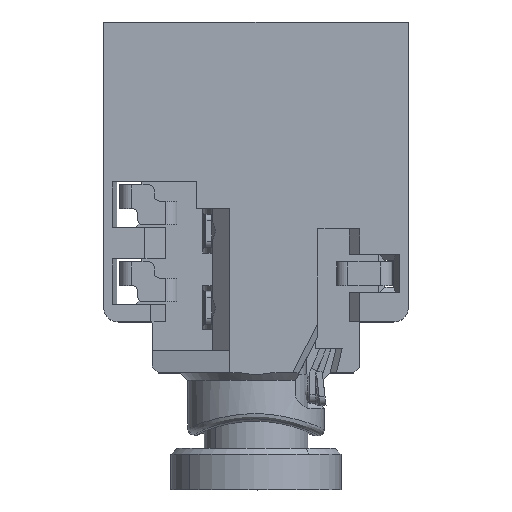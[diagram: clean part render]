
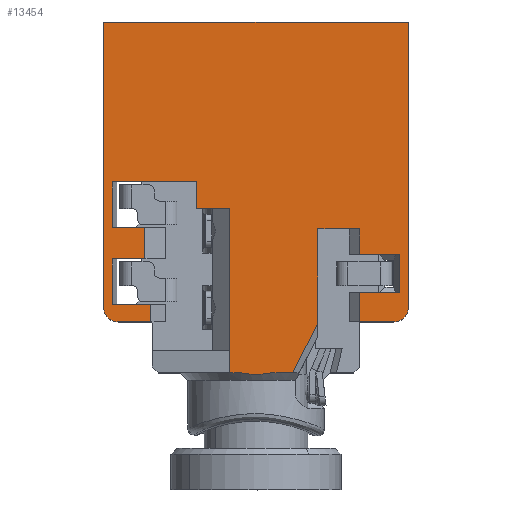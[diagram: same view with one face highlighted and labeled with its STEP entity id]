
A CAD part, top view. The second image highlights one B-rep face of the part: STEP entity #13454.
In plain terms, the highlighted planar face has unit normal (0, 0, 1).
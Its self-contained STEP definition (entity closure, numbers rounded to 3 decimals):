
#2770=DIRECTION('',(0.,-1.,0.));
#2771=VECTOR('',#2770,4.8);
#2772=CARTESIAN_POINT('',(-71.043,0.2,0.));
#2773=LINE('',#2772,#2771);
#2774=DIRECTION('',(0.,-1.,0.));
#2775=VECTOR('',#2774,0.9);
#2776=CARTESIAN_POINT('',(-72.163,1.1,0.));
#2777=LINE('',#2776,#2775);
#2778=DIRECTION('',(1.,0.,0.));
#2779=VECTOR('',#2778,1.1);
#2780=CARTESIAN_POINT('',(-74.813,-3.63,0.));
#2781=LINE('',#2780,#2779);
#2782=CARTESIAN_POINT('',(-74.813,-3.13,0.));
#2783=DIRECTION('',(0.,0.,1.));
#2784=DIRECTION('',(-1.,0.,0.));
#2785=AXIS2_PLACEMENT_3D('',#2782,#2783,#2784);
#2787=DIRECTION('',(0.,-1.,0.));
#2788=VECTOR('',#2787,9.63);
#2789=CARTESIAN_POINT('',(-75.313,6.5,0.));
#2790=LINE('',#2789,#2788);
#2791=DIRECTION('',(-1.,0.,0.));
#2792=VECTOR('',#2791,10.3);
#2793=CARTESIAN_POINT('',(-65.013,6.5,0.));
#2794=LINE('',#2793,#2792);
#2795=CARTESIAN_POINT('',(-65.513,-3.13,0.));
#2796=DIRECTION('',(0.,0.,1.));
#2797=DIRECTION('',(0.,-1.,0.));
#2798=AXIS2_PLACEMENT_3D('',#2795,#2796,#2797);
#2800=DIRECTION('',(0.,-1.,0.));
#2801=VECTOR('',#2800,0.98);
#2802=CARTESIAN_POINT('',(-66.663,-2.65,0.));
#2803=LINE('',#2802,#2801);
#2804=DIRECTION('',(-1.,0.,0.));
#2805=VECTOR('',#2804,1.35);
#2806=CARTESIAN_POINT('',(-65.313,-2.65,0.));
#2807=LINE('',#2806,#2805);
#2808=DIRECTION('',(1.,0.,0.));
#2809=VECTOR('',#2808,1.35);
#2810=CARTESIAN_POINT('',(-66.663,-1.35,0.));
#2811=LINE('',#2810,#2809);
#2812=DIRECTION('',(0.,-1.,0.));
#2813=VECTOR('',#2812,0.865);
#2814=CARTESIAN_POINT('',(-66.663,-0.485,0.));
#2815=LINE('',#2814,#2813);
#2816=DIRECTION('',(1.,0.,0.));
#2817=VECTOR('',#2816,1.41);
#2818=CARTESIAN_POINT('',(-68.073,-0.485,0.));
#2819=LINE('',#2818,#2817);
#2820=DIRECTION('',(0.,1.,0.));
#2821=VECTOR('',#2820,3.186);
#2822=CARTESIAN_POINT('',(-68.073,-3.671,0.));
#2823=LINE('',#2822,#2821);
#2824=DIRECTION('',(0.455,0.891,0.));
#2825=VECTOR('',#2824,1.885);
#2826=CARTESIAN_POINT('',(-68.93,-5.35,0.));
#2827=LINE('',#2826,#2825);
#2828=DIRECTION('',(1.,0.,0.));
#2829=VECTOR('',#2828,0.731);
#2830=CARTESIAN_POINT('',(-69.661,-5.35,0.));
#2831=LINE('',#2830,#2829);
#2832=DIRECTION('',(1.,0.,0.));
#2833=VECTOR('',#2832,0.378);
#2834=CARTESIAN_POINT('',(-71.043,-5.35,0.));
#2835=LINE('',#2834,#2833);
#2836=DIRECTION('',(0.,-1.,0.));
#2837=VECTOR('',#2836,0.75);
#2838=CARTESIAN_POINT('',(-71.043,-4.6,0.));
#2839=LINE('',#2838,#2837);
#5159=CARTESIAN_POINT('',(-69.661,-5.35,0.));
#5160=CARTESIAN_POINT('',(-69.772,-5.372,0.));
#5161=CARTESIAN_POINT('',(-69.994,-5.402,0.));
#5162=CARTESIAN_POINT('',(-70.332,-5.402,0.));
#5163=CARTESIAN_POINT('',(-70.554,-5.372,0.));
#5164=CARTESIAN_POINT('',(-70.666,-5.35,0.));
#6139=DIRECTION('',(-1.,0.,0.));
#6140=VECTOR('',#6139,1.12);
#6141=CARTESIAN_POINT('',(-71.043,0.2,0.));
#6142=LINE('',#6141,#6140);
#6177=DIRECTION('',(-1.,0.,0.));
#6178=VECTOR('',#6177,2.85);
#6179=CARTESIAN_POINT('',(-72.163,1.1,0.));
#6180=LINE('',#6179,#6178);
#6285=DIRECTION('',(0.,-1.,0.));
#6286=VECTOR('',#6285,0.58);
#6287=CARTESIAN_POINT('',(-73.713,-3.05,0.));
#6288=LINE('',#6287,#6286);
#6289=DIRECTION('',(1.,0.,0.));
#6290=VECTOR('',#6289,1.3);
#6291=CARTESIAN_POINT('',(-75.013,-3.05,0.));
#6292=LINE('',#6291,#6290);
#6317=DIRECTION('',(0.,-1.,0.));
#6318=VECTOR('',#6317,1.55);
#6319=CARTESIAN_POINT('',(-75.013,-1.5,0.));
#6320=LINE('',#6319,#6318);
#6329=DIRECTION('',(-1.,0.,0.));
#6330=VECTOR('',#6329,1.1);
#6331=CARTESIAN_POINT('',(-73.913,-1.5,0.));
#6332=LINE('',#6331,#6330);
#6406=DIRECTION('',(1.,0.,0.));
#6407=VECTOR('',#6406,1.1);
#6408=CARTESIAN_POINT('',(-75.013,-0.45,0.));
#6409=LINE('',#6408,#6407);
#6434=DIRECTION('',(0.,-1.,0.));
#6435=VECTOR('',#6434,1.55);
#6436=CARTESIAN_POINT('',(-75.013,1.1,0.));
#6437=LINE('',#6436,#6435);
#6475=DIRECTION('',(0.,-1.,0.));
#6476=VECTOR('',#6475,1.05);
#6477=CARTESIAN_POINT('',(-73.913,-0.45,0.));
#6478=LINE('',#6477,#6476);
#8000=DIRECTION('',(0.,-1.,0.));
#8001=VECTOR('',#8000,9.63);
#8002=CARTESIAN_POINT('',(-65.013,6.5,0.));
#8003=LINE('',#8002,#8001);
#8311=DIRECTION('',(0.,1.,0.));
#8312=VECTOR('',#8311,1.3);
#8313=CARTESIAN_POINT('',(-65.313,-2.65,0.));
#8314=LINE('',#8313,#8312);
#8351=DIRECTION('',(-1.,0.,0.));
#8352=VECTOR('',#8351,1.15);
#8353=CARTESIAN_POINT('',(-65.513,-3.63,0.));
#8354=LINE('',#8353,#8352);
#10346=CARTESIAN_POINT('',(-71.043,-4.6,0.));
#10348=VERTEX_POINT('',#10346);
#10370=CARTESIAN_POINT('',(-65.513,-3.63,0.));
#10371=VERTEX_POINT('',#10370);
#10430=CARTESIAN_POINT('',(-71.043,-5.35,0.));
#10431=CARTESIAN_POINT('',(-70.666,-5.35,0.));
#10432=VERTEX_POINT('',#10430);
#10433=VERTEX_POINT('',#10431);
#10492=CARTESIAN_POINT('',(-75.013,1.1,0.));
#10494=VERTEX_POINT('',#10492);
#10818=CARTESIAN_POINT('',(-66.663,-0.485,0.));
#10820=VERTEX_POINT('',#10818);
#10859=CARTESIAN_POINT('',(-72.163,1.1,0.));
#10860=CARTESIAN_POINT('',(-72.163,0.2,0.));
#10861=VERTEX_POINT('',#10859);
#10862=VERTEX_POINT('',#10860);
#10886=CARTESIAN_POINT('',(-66.663,-2.65,0.));
#10887=VERTEX_POINT('',#10886);
#11103=CARTESIAN_POINT('',(-75.013,-0.45,0.));
#11104=VERTEX_POINT('',#11103);
#11143=CARTESIAN_POINT('',(-65.013,-3.13,0.));
#11144=VERTEX_POINT('',#11143);
#11187=CARTESIAN_POINT('',(-69.661,-5.35,0.));
#11188=VERTEX_POINT('',#11187);
#11378=CARTESIAN_POINT('',(-68.073,-0.485,0.));
#11379=VERTEX_POINT('',#11378);
#11389=CARTESIAN_POINT('',(-68.93,-5.35,0.));
#11390=VERTEX_POINT('',#11389);
#11442=CARTESIAN_POINT('',(-66.663,-1.35,0.));
#11443=CARTESIAN_POINT('',(-65.313,-1.35,0.));
#11444=VERTEX_POINT('',#11442);
#11445=VERTEX_POINT('',#11443);
#11454=CARTESIAN_POINT('',(-65.013,6.5,0.));
#11455=VERTEX_POINT('',#11454);
#11708=CARTESIAN_POINT('',(-66.663,-3.63,0.));
#11709=VERTEX_POINT('',#11708);
#11829=CARTESIAN_POINT('',(-75.013,-1.5,0.));
#11830=VERTEX_POINT('',#11829);
#11851=CARTESIAN_POINT('',(-73.913,-1.5,0.));
#11852=VERTEX_POINT('',#11851);
#11867=CARTESIAN_POINT('',(-65.313,-2.65,0.));
#11868=VERTEX_POINT('',#11867);
#11988=CARTESIAN_POINT('',(-71.043,0.2,0.));
#11989=VERTEX_POINT('',#11988);
#11990=CARTESIAN_POINT('',(-68.073,-3.671,0.));
#11991=VERTEX_POINT('',#11990);
#12039=CARTESIAN_POINT('',(-73.713,-3.63,0.));
#12040=VERTEX_POINT('',#12039);
#12169=CARTESIAN_POINT('',(-75.013,-3.05,0.));
#12170=CARTESIAN_POINT('',(-73.713,-3.05,0.));
#12171=VERTEX_POINT('',#12169);
#12172=VERTEX_POINT('',#12170);
#12232=CARTESIAN_POINT('',(-75.313,-3.13,0.));
#12233=VERTEX_POINT('',#12232);
#12266=CARTESIAN_POINT('',(-75.313,6.5,0.));
#12267=VERTEX_POINT('',#12266);
#12278=CARTESIAN_POINT('',(-74.813,-3.63,0.));
#12279=VERTEX_POINT('',#12278);
#12282=CARTESIAN_POINT('',(-73.913,-0.45,0.));
#12283=VERTEX_POINT('',#12282);
#13390=CARTESIAN_POINT('',(-75.15,6.748,0.));
#13391=DIRECTION('',(0.,0.,-1.));
#13392=DIRECTION('',(1.,0.,0.));
#13393=AXIS2_PLACEMENT_3D('',#13390,#13391,#13392);
#13394=PLANE('',#13393);
#13396=ORIENTED_EDGE('',*,*,#13395,.F.);
#13398=ORIENTED_EDGE('',*,*,#13397,.T.);
#13400=ORIENTED_EDGE('',*,*,#13399,.F.);
#13402=ORIENTED_EDGE('',*,*,#13401,.T.);
#13404=ORIENTED_EDGE('',*,*,#13403,.T.);
#13406=ORIENTED_EDGE('',*,*,#13405,.T.);
#13408=ORIENTED_EDGE('',*,*,#13407,.T.);
#13410=ORIENTED_EDGE('',*,*,#13409,.T.);
#13412=ORIENTED_EDGE('',*,*,#13411,.T.);
#13414=ORIENTED_EDGE('',*,*,#13413,.T.);
#13416=ORIENTED_EDGE('',*,*,#13415,.T.);
#13418=ORIENTED_EDGE('',*,*,#13417,.F.);
#13420=ORIENTED_EDGE('',*,*,#13419,.F.);
#13422=ORIENTED_EDGE('',*,*,#13421,.F.);
#13423=ORIENTED_EDGE('',*,*,#13019,.F.);
#13425=ORIENTED_EDGE('',*,*,#13424,.T.);
#13427=ORIENTED_EDGE('',*,*,#13426,.F.);
#13429=ORIENTED_EDGE('',*,*,#13428,.T.);
#13431=ORIENTED_EDGE('',*,*,#13430,.F.);
#13433=ORIENTED_EDGE('',*,*,#13432,.F.);
#13435=ORIENTED_EDGE('',*,*,#13434,.T.);
#13436=ORIENTED_EDGE('',*,*,#13379,.F.);
#13437=ORIENTED_EDGE('',*,*,#13369,.F.);
#13439=ORIENTED_EDGE('',*,*,#13438,.F.);
#13441=ORIENTED_EDGE('',*,*,#13440,.F.);
#13443=ORIENTED_EDGE('',*,*,#13442,.F.);
#13445=ORIENTED_EDGE('',*,*,#13444,.F.);
#13447=ORIENTED_EDGE('',*,*,#13446,.T.);
#13449=ORIENTED_EDGE('',*,*,#13448,.F.);
#13451=ORIENTED_EDGE('',*,*,#13450,.F.);
#13452=EDGE_LOOP('',(#13396,#13398,#13400,#13402,#13404,#13406,#13408,#13410,
#13412,#13414,#13416,#13418,#13420,#13422,#13423,#13425,#13427,#13429,#13431,
#13433,#13435,#13436,#13437,#13439,#13441,#13443,#13445,#13447,#13449,#13451));
#13453=FACE_OUTER_BOUND('',#13452,.F.);
#2786=CIRCLE('',#2785,0.5);
#2799=CIRCLE('',#2798,0.5);
#5165=B_SPLINE_CURVE_WITH_KNOTS('',3,(#5159,#5160,#5161,#5162,#5163,#5164),
.UNSPECIFIED.,.F.,.F.,(4,1,1,4),(0.,0.333,0.667,1.),
.UNSPECIFIED.);
#13019=EDGE_CURVE('',#11455,#12267,#2794,.T.);
#13369=EDGE_CURVE('',#10820,#11444,#2815,.T.);
#13379=EDGE_CURVE('',#11444,#11445,#2811,.T.);
#13395=EDGE_CURVE('',#11989,#10348,#2773,.T.);
#13397=EDGE_CURVE('',#11989,#10862,#6142,.T.);
#13399=EDGE_CURVE('',#10861,#10862,#2777,.T.);
#13401=EDGE_CURVE('',#10861,#10494,#6180,.T.);
#13403=EDGE_CURVE('',#10494,#11104,#6437,.T.);
#13405=EDGE_CURVE('',#11104,#12283,#6409,.T.);
#13407=EDGE_CURVE('',#12283,#11852,#6478,.T.);
#13409=EDGE_CURVE('',#11852,#11830,#6332,.T.);
#13411=EDGE_CURVE('',#11830,#12171,#6320,.T.);
#13413=EDGE_CURVE('',#12171,#12172,#6292,.T.);
#13415=EDGE_CURVE('',#12172,#12040,#6288,.T.);
#13417=EDGE_CURVE('',#12279,#12040,#2781,.T.);
#13419=EDGE_CURVE('',#12233,#12279,#2786,.T.);
#13421=EDGE_CURVE('',#12267,#12233,#2790,.T.);
#13424=EDGE_CURVE('',#11455,#11144,#8003,.T.);
#13426=EDGE_CURVE('',#10371,#11144,#2799,.T.);
#13428=EDGE_CURVE('',#10371,#11709,#8354,.T.);
#13430=EDGE_CURVE('',#10887,#11709,#2803,.T.);
#13432=EDGE_CURVE('',#11868,#10887,#2807,.T.);
#13434=EDGE_CURVE('',#11868,#11445,#8314,.T.);
#13438=EDGE_CURVE('',#11379,#10820,#2819,.T.);
#13440=EDGE_CURVE('',#11991,#11379,#2823,.T.);
#13442=EDGE_CURVE('',#11390,#11991,#2827,.T.);
#13444=EDGE_CURVE('',#11188,#11390,#2831,.T.);
#13446=EDGE_CURVE('',#11188,#10433,#5165,.T.);
#13448=EDGE_CURVE('',#10432,#10433,#2835,.T.);
#13450=EDGE_CURVE('',#10348,#10432,#2839,.T.);
#13454=ADVANCED_FACE('',(#13453),#13394,.F.);
